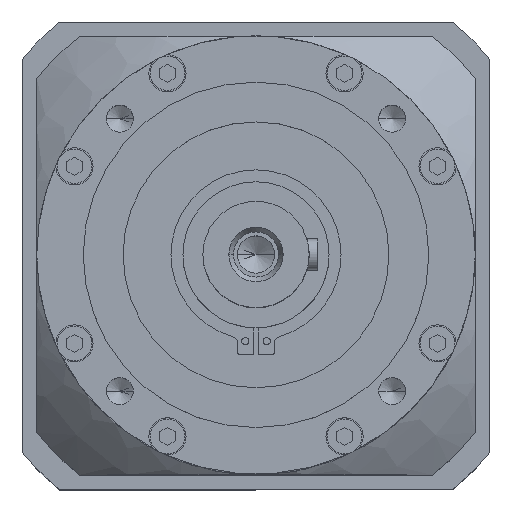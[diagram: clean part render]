
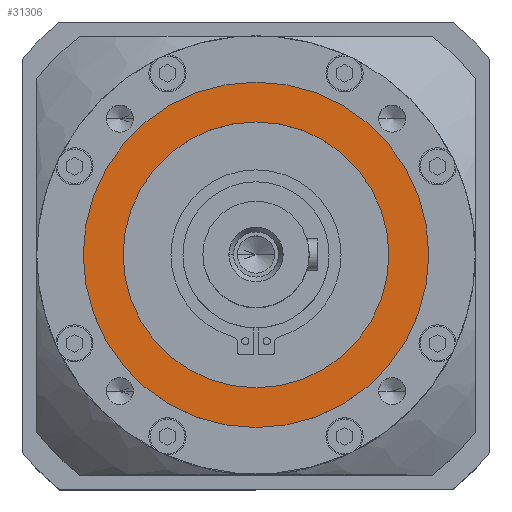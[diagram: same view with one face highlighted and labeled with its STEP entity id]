
A CAD part, top view. The second image highlights one B-rep face of the part: STEP entity #31306.
In plain terms, the highlighted planar face has unit normal (0, 0, 1).
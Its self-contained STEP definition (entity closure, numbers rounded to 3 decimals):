
#124 = CARTESIAN_POINT ( 'NONE',  ( -65., 0., 0. ) ) ;
#2733 = DIRECTION ( 'NONE',  ( -1., 0., 0. ) ) ;
#6451 = EDGE_CURVE ( 'NONE', #33669, #47635, #28834, .T. ) ;
#7085 = VERTEX_POINT ( 'NONE', #17578 ) ;
#7341 = DIRECTION ( 'NONE',  ( 0., 0., -1. ) ) ;
#9738 = CARTESIAN_POINT ( 'NONE',  ( 0., 0., 0. ) ) ;
#9928 = EDGE_CURVE ( 'NONE', #14489, #7085, #39613, .T. ) ;
#10031 = ORIENTED_EDGE ( 'NONE', *, *, #32182, .F. ) ;
#11568 = AXIS2_PLACEMENT_3D ( 'NONE', #38134, #38091, #38032 ) ;
#11954 = ORIENTED_EDGE ( 'NONE', *, *, #31572, .F. ) ;
#13589 = DIRECTION ( 'NONE',  ( 1., 0., 0. ) ) ;
#14489 = VERTEX_POINT ( 'NONE', #40907 ) ;
#15059 = AXIS2_PLACEMENT_3D ( 'NONE', #9738, #36001, #13589 ) ;
#17326 = ORIENTED_EDGE ( 'NONE', *, *, #6451, .F. ) ;
#17578 = CARTESIAN_POINT ( 'NONE',  ( -50., 0., 0. ) ) ;
#19445 = EDGE_LOOP ( 'NONE', ( #10031, #17326 ) ) ;
#25349 = DIRECTION ( 'NONE',  ( 0., 0., -1. ) ) ;
#28834 = CIRCLE ( 'NONE', #11568, 65. ) ;
#29918 = CARTESIAN_POINT ( 'NONE',  ( 0., 0., 0. ) ) ;
#31306 = ADVANCED_FACE ( 'NONE', ( #37284, #37794 ), #36343, .F. ) ;
#31572 = EDGE_CURVE ( 'NONE', #7085, #14489, #40087, .T. ) ;
#32182 = EDGE_CURVE ( 'NONE', #47635, #33669, #44274, .T. ) ;
#32636 = CARTESIAN_POINT ( 'NONE',  ( 0., 50., 0. ) ) ;
#33638 = DIRECTION ( 'NONE',  ( 1., 0., 0. ) ) ;
#33669 = VERTEX_POINT ( 'NONE', #124 ) ;
#35620 = DIRECTION ( 'NONE',  ( 1., 0., 0. ) ) ;
#35787 = DIRECTION ( 'NONE',  ( 0., 0., 1. ) ) ;
#35944 = CARTESIAN_POINT ( 'NONE',  ( 0., 0., 0. ) ) ;
#36001 = DIRECTION ( 'NONE',  ( 0., 0., 1. ) ) ;
#36343 = PLANE ( 'NONE',  #43381 ) ;
#37284 = FACE_BOUND ( 'NONE', #46173, .T. ) ;
#37372 = AXIS2_PLACEMENT_3D ( 'NONE', #35944, #35787, #35620 ) ;
#37794 = FACE_OUTER_BOUND ( 'NONE', #19445, .T. ) ;
#38032 = DIRECTION ( 'NONE',  ( 1., 0., 0. ) ) ;
#38091 = DIRECTION ( 'NONE',  ( 0., 0., -1. ) ) ;
#38134 = CARTESIAN_POINT ( 'NONE',  ( 0., 0., 0. ) ) ;
#38323 = CARTESIAN_POINT ( 'NONE',  ( 65., 0., 0. ) ) ;
#39613 = CIRCLE ( 'NONE', #37372, 50. ) ;
#40087 = CIRCLE ( 'NONE', #15059, 50. ) ;
#40907 = CARTESIAN_POINT ( 'NONE',  ( 50., 0., 0. ) ) ;
#41597 = AXIS2_PLACEMENT_3D ( 'NONE', #29918, #7341, #33638 ) ;
#43381 = AXIS2_PLACEMENT_3D ( 'NONE', #32636, #25349, #2733 ) ;
#44274 = CIRCLE ( 'NONE', #41597, 65. ) ;
#44429 = ORIENTED_EDGE ( 'NONE', *, *, #9928, .F. ) ;
#46173 = EDGE_LOOP ( 'NONE', ( #44429, #11954 ) ) ;
#47635 = VERTEX_POINT ( 'NONE', #38323 ) ;
